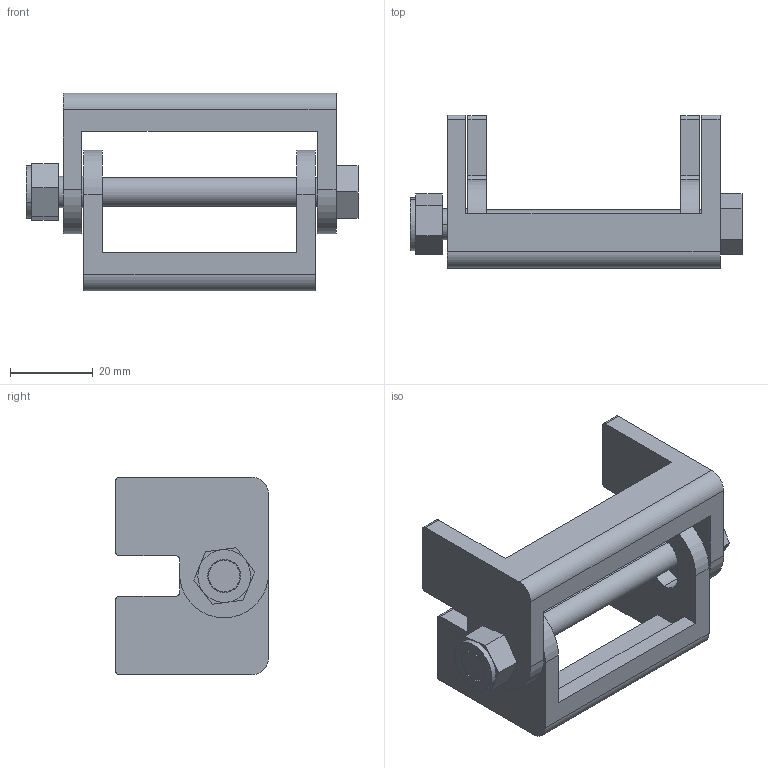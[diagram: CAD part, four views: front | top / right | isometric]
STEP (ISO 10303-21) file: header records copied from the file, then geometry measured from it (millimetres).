
FILE_DESCRIPTION (( 'STEP AP203' ), '1' );
FILE_NAME ('J02-30480.STEP', '2024-11-04T08:35:25', ( '' ), ( '' ), 'SwSTEP 2.0', 'SolidWorks 2021', '' );
FILE_SCHEMA (( 'CONFIG_CONTROL_DESIGN' ));
Length unit declared in the file: millimetre
Products named in the file (5): J02-30480; J02-30465-3; J02-30465-2; J02-30465-4; J02-30465-1
Assembly tree (4 placements, depth 2):
  J02-30480
    J02-30465-3
    J02-30465-2
    J02-30465-1
    J02-30465-4
Bounding box: 80.3 x 37 x 47.8 mm (x, y, z)
Volume: 28917.9 mm3; surface area: 17080.8 mm2
Topology: 4 solids, 4 shells, 101 faces, 270 edges, 180 vertices
Faces by surface type: plane 59, cylinder 42
Entity records: 3711 total; most frequent: DIRECTION 570, CARTESIAN_POINT 558, ORIENTED_EDGE 540, EDGE_CURVE 270, AXIS2_PLACEMENT_3D 192, VECTOR 186, LINE 186, VERTEX_POINT 180
